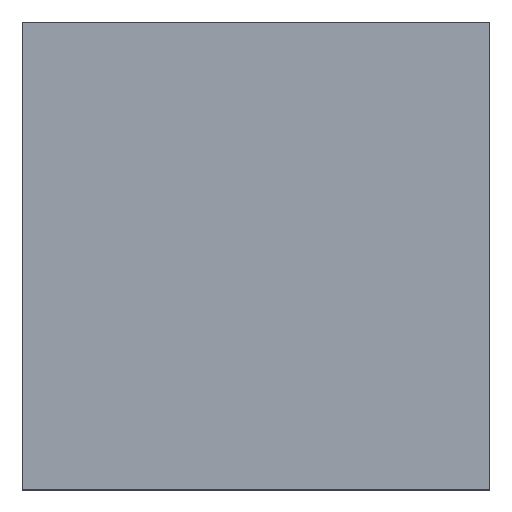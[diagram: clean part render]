
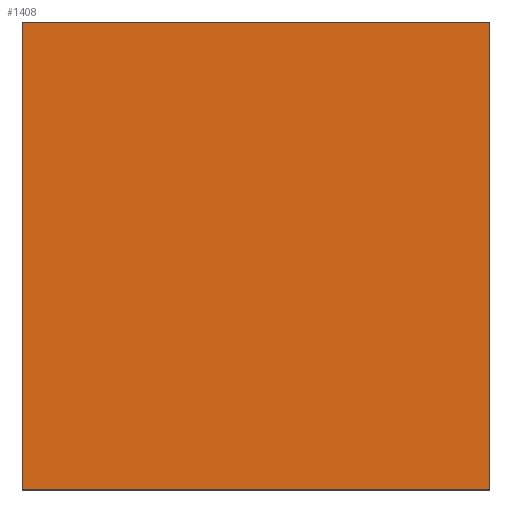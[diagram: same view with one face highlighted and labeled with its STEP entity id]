
A CAD part, top view. The second image highlights one B-rep face of the part: STEP entity #1408.
In plain terms, the highlighted planar face has unit normal (0, 0, 1).
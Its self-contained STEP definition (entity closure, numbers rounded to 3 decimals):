
#192=ORIENTED_EDGE('',*,*,#548,.T.);
#193=ORIENTED_EDGE('',*,*,#552,.T.);
#194=ORIENTED_EDGE('',*,*,#555,.T.);
#195=ORIENTED_EDGE('',*,*,#557,.T.);
#548=EDGE_CURVE('',#725,#724,#876,.T.);
#552=EDGE_CURVE('',#724,#727,#880,.T.);
#555=EDGE_CURVE('',#727,#729,#883,.T.);
#557=EDGE_CURVE('',#729,#725,#885,.T.);
#724=VERTEX_POINT('',#2153);
#725=VERTEX_POINT('',#2155);
#727=VERTEX_POINT('',#2161);
#729=VERTEX_POINT('',#2167);
#876=LINE('',#2154,#1076);
#880=LINE('',#2162,#1080);
#883=LINE('',#2168,#1083);
#885=LINE('',#2171,#1085);
#1076=VECTOR('',#1728,1000.);
#1080=VECTOR('',#1734,1000.);
#1083=VECTOR('',#1739,1000.);
#1085=VECTOR('',#1743,1000.);
#1181=EDGE_LOOP('',(#192,#193,#194,#195));
#1257=FACE_BOUND('',#1181,.T.);
#1333=PLANE('',#1496);
#1408=ADVANCED_FACE('',(#1257),#1333,.T.);
#1496=AXIS2_PLACEMENT_3D('',#2172,#1744,#1745);
#1728=DIRECTION('',(-1.,0.,0.));
#1734=DIRECTION('',(0.,-1.,0.));
#1739=DIRECTION('',(1.,0.,0.));
#1743=DIRECTION('',(0.,1.,0.));
#1744=DIRECTION('',(0.,0.,1.));
#1745=DIRECTION('',(1.,0.,0.));
#2153=CARTESIAN_POINT('',(-10.,10.,3.));
#2154=CARTESIAN_POINT('',(10.,10.,3.));
#2155=CARTESIAN_POINT('',(10.,10.,3.));
#2161=CARTESIAN_POINT('',(-10.,-10.,3.));
#2162=CARTESIAN_POINT('',(-10.,10.,3.));
#2167=CARTESIAN_POINT('',(10.,-10.,3.));
#2168=CARTESIAN_POINT('',(-10.,-10.,3.));
#2171=CARTESIAN_POINT('',(10.,-10.,3.));
#2172=CARTESIAN_POINT('',(0.,0.,3.));
